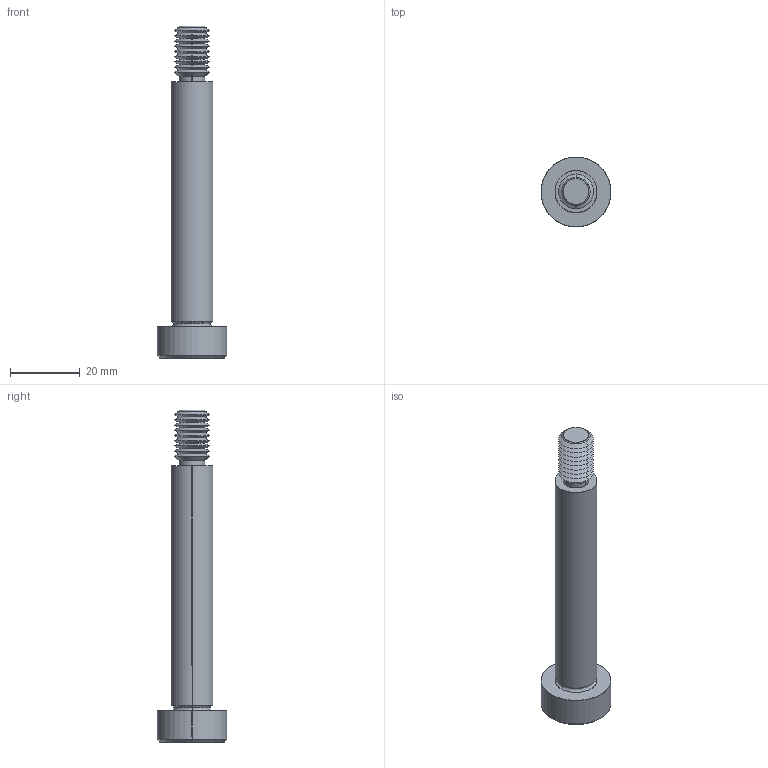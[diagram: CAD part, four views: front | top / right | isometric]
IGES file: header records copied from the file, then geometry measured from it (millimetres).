
Start section: SolidWorks IGES file using analytic representation for surfaces
Global section: file name: C:\Users\IanO\Documents\Temp Folder\GENERAL\SCREW REVISION\P0130_v2\P0130.T5_v2_20220106_IGES\P0130.120-070-T5.igs; native system: SolidWorks 2019; preprocessor: SolidWorks 2019; author: IanO; date: 220106.225050; units: millimetre
Bounding box: 20 x 20 x 95 mm (x, y, z)
Surface area: 4756.2 mm2 (no closed solid volume)
Topology: 0 solids, 0 shells, 76 faces, 564 edges, 562 vertices
Faces by surface type: revolution 56, bspline 20
